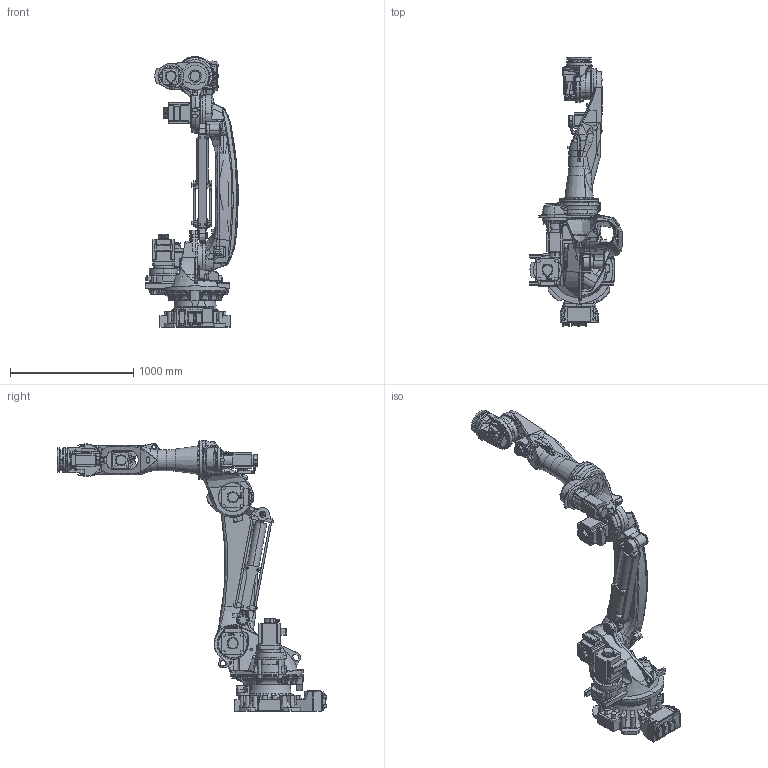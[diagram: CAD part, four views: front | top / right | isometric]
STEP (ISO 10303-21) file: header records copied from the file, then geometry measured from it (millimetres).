
FILE_DESCRIPTION(('CATIA V5 STEP Exchange'),'2;1');
FILE_NAME('F:\☆直近作業\3CX210L-BC01_160223\軽量化\Part\CX210L-BC01\CX210L-BC01 catia-assy.stp','2016-02-29T08:39:51+00:00',('none'),('none'),'CATIA Version 5-6 Release 2013 SP5 HF60','CATIA V5 STEP AP203','none');
FILE_SCHEMA(('CONFIG_CONTROL_DESIGN'));
Products named in the file (1): CX210L-BC01
Assembly tree (13 placements, depth 2):
  CX210L-BC01
    #57
    #17808
    #71746
    #107322
    #138988
    #162440
    #176143
    #177985
    #191273
    #191519
    #204666
    #210111
    #215325
Bounding box: 760 x 2187.72 x 2198.49 mm (x, y, z)
Volume: 176826507.3 mm3; surface area: 11424587.6 mm2
Topology: 36 solids, 79 shells, 5151 faces, 13385 edges, 8567 vertices
Faces by surface type: plane 2351, cylinder 1208, bspline 765, cone 513, torus 184, sphere 60, extrusion 39, revolution 31
Entity records: 221469 total; most frequent: CARTESIAN_POINT 111004, ORIENTED_EDGE 26449, DIRECTION 15670, EDGE_CURVE 13289, VERTEX_POINT 8562, AXIS2_PLACEMENT_3D 6534, VECTOR 5784, LINE 5745
